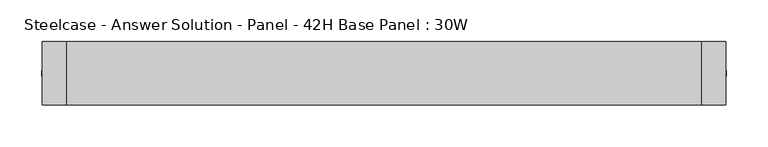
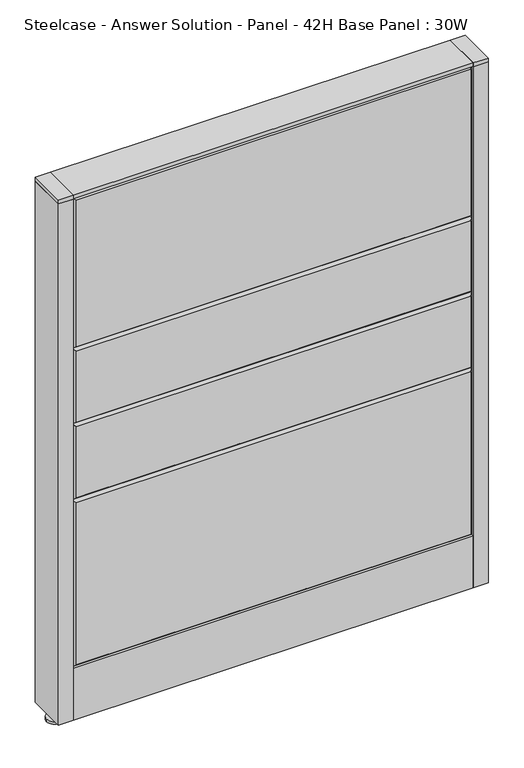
"""IFC4 building model written with IfcOpenShell, lengths in millimetres: furniture geometry, Steelcase - Answer Solution - Panel - 42H Base Panel : 30W."""

from ifc_helpers import new_model, si_unit, point, frame, frame_2d, origin, place, context, project, spatial, polyline, circle_curve, trimmed, segment, composite_curve, outline, extrude, faceted_brep, source, transform, mapped, element, save


def steelcase_answer_solution_panel_42h_base_panel_30w_7ac61dde(model_context):
    return source(origin(), model_context, "Body", "SolidModel", [
        extrude(outline(composite_curve([segment(trimmed(circle_curve(frame_2d((395.224, 0.0039657)), 5.08), [point((400.304, 0.0039657))], [point((390.144, 0.0039657))], False, "CARTESIAN"), True, "CONTINUOUS"), segment(trimmed(circle_curve(frame_2d((395.224, 0.0039657)), 5.08), [point((390.144, 0.0039657))], [point((400.304, 0.0039657))], False, "CARTESIAN"), True, "CONTINUOUS")], self_intersect=False)), frame((0.0, 0.0, 5.0799671), z_axis=(0.0, 0.0, 1.0), x_axis=(1.0, 0.0, 0.0)), (0.0, 0.0, 1.0), 10.414),
        extrude(outline(composite_curve([segment(trimmed(circle_curve(frame_2d((395.224, 0.0039657)), 15.24), [point((410.464, 0.0039657))], [point((379.984, 0.0039657))], False, "CARTESIAN"), True, "CONTINUOUS"), segment(trimmed(circle_curve(frame_2d((395.224, 0.0039657)), 15.24), [point((379.984, 0.0039657))], [point((410.464, 0.0039657))], False, "CARTESIAN"), True, "CONTINUOUS")], self_intersect=False)), frame((0.0, 0.0, -3.29e-05), z_axis=(0.0, 0.0, 1.0), x_axis=(1.0, 0.0, 0.0)), (0.0, 0.0, 1.0), 5.08),
        extrude(outline(polyline([(409.575, 38.1039851), (409.575, -38.0960149), (381.0, -38.0960149), (381.0, 38.1039851), (409.575, 38.1039851)])), frame((0.0, 0.0, 1065.8348), z_axis=(0.0, 0.0, 1.0), x_axis=(1.0, 0.0, 0.0)), (0.0, 0.0, 1.0), 7.3151671),
        extrude(outline(polyline([(409.575, 38.1039851), (409.575, -38.0960149), (381.0, -38.0960149), (381.0, 38.1039851), (409.575, 38.1039851)])), frame((0.0, 0.0, 15.4939671), z_axis=(0.0, 0.0, 1.0), x_axis=(1.0, 0.0, 0.0)), (0.0, 0.0, 1.0), 1050.3408329),
        extrude(outline(composite_curve([segment(trimmed(circle_curve(frame_2d((-395.224, 0.0039657)), 5.08), [point((-400.304, 0.0039657))], [point((-390.144, 0.0039657))], False, "CARTESIAN"), True, "CONTINUOUS"), segment(trimmed(circle_curve(frame_2d((-395.224, 0.0039657)), 5.08), [point((-390.144, 0.0039657))], [point((-400.304, 0.0039657))], False, "CARTESIAN"), True, "CONTINUOUS")], self_intersect=False)), frame((0.0, 0.0, 5.0799671), z_axis=(0.0, 0.0, 1.0), x_axis=(1.0, 0.0, 0.0)), (0.0, 0.0, 1.0), 10.414),
        extrude(outline(composite_curve([segment(trimmed(circle_curve(frame_2d((-395.224, 0.0039657)), 15.24), [point((-410.464, 0.0039657))], [point((-379.984, 0.0039657))], False, "CARTESIAN"), True, "CONTINUOUS"), segment(trimmed(circle_curve(frame_2d((-395.224, 0.0039657)), 15.24), [point((-379.984, 0.0039657))], [point((-410.464, 0.0039657))], False, "CARTESIAN"), True, "CONTINUOUS")], self_intersect=False)), frame((0.0, 0.0, -3.29e-05), z_axis=(0.0, 0.0, 1.0), x_axis=(1.0, 0.0, 0.0)), (0.0, 0.0, 1.0), 5.08),
        extrude(outline(polyline([(-409.575, 38.1039851), (-381.0, 38.1039851), (-381.0, -38.0960149), (-409.575, -38.0960149), (-409.575, 38.1039851)])), frame((0.0, 0.0, 1065.8348), z_axis=(0.0, 0.0, 1.0), x_axis=(1.0, 0.0, 0.0)), (0.0, 0.0, 1.0), 7.3151671),
        extrude(outline(polyline([(-409.575, 38.1039851), (-381.0, 38.1039851), (-381.0, -38.0960149), (-409.575, -38.0960149), (-409.575, 38.1039851)])), frame((0.0, 0.0, 15.4939671), z_axis=(0.0, 0.0, 1.0), x_axis=(1.0, 0.0, 0.0)), (0.0, 0.0, 1.0), 1050.3408329),
        faceted_brep([(-376.174, 38.1635011, 1061.974), (376.174, 38.1635011, 1061.974), (376.174, 38.1635011, 766.826), (-376.174, 38.1635011, 766.826), (-381.0, 33.3375011, 1066.8), (-381.0, 33.3375011, 762.0), (381.0, 33.3375011, 762.0), (381.0, 33.3375011, 1066.8)], [[[0, 1, 2, 3]], [[4, 5, 6, 7]], [[4, 7, 1, 0]], [[7, 6, 2, 1]], [[6, 5, 3, 2]], [[5, 4, 0, 3]]]),
        faceted_brep([(-376.174, 38.1635011, 757.174), (376.174, 38.1635011, 757.174), (376.174, 38.1635011, 614.426), (-376.174, 38.1635011, 614.426), (-381.0, 33.3375011, 762.0), (-381.0, 33.3375011, 609.6), (381.0, 33.3375011, 609.6), (381.0, 33.3375011, 762.0)], [[[0, 1, 2, 3]], [[4, 5, 6, 7]], [[4, 7, 1, 0]], [[7, 6, 2, 1]], [[6, 5, 3, 2]], [[5, 4, 0, 3]]]),
        faceted_brep([(-376.174, 38.1635011, 604.774), (376.174, 38.1635011, 604.774), (376.174, 38.1635011, 462.026), (-376.174, 38.1635011, 462.026), (-381.0, 33.3375011, 609.6), (-381.0, 33.3375011, 457.2), (381.0, 33.3375011, 457.2), (381.0, 33.3375011, 609.6)], [[[0, 1, 2, 3]], [[4, 5, 6, 7]], [[4, 7, 1, 0]], [[7, 6, 2, 1]], [[6, 5, 3, 2]], [[5, 4, 0, 3]]]),
        faceted_brep([(-376.174, 38.1635011, 452.374), (376.174, 38.1635011, 452.374), (376.174, 38.1635011, 125.476), (-376.174, 38.1635011, 125.476), (-381.0, 33.3375011, 457.2), (-381.0, 33.3375011, 120.65), (381.0, 33.3375011, 120.65), (381.0, 33.3375011, 457.2)], [[[0, 1, 2, 3]], [[4, 5, 6, 7]], [[4, 7, 1, 0]], [[7, 6, 2, 1]], [[6, 5, 3, 2]], [[5, 4, 0, 3]]]),
        faceted_brep([(376.174, -38.1635011, 1061.974), (-376.174, -38.1635011, 1061.974), (-376.174, -38.1635011, 766.826), (376.174, -38.1635011, 766.826), (381.0, -33.3375011, 1066.8), (381.0, -33.3375011, 762.0), (-381.0, -33.3375011, 762.0), (-381.0, -33.3375011, 1066.8)], [[[0, 1, 2, 3]], [[4, 5, 6, 7]], [[4, 7, 1, 0]], [[7, 6, 2, 1]], [[6, 5, 3, 2]], [[5, 4, 0, 3]]]),
        faceted_brep([(376.174, -38.1635011, 757.174), (-376.174, -38.1635011, 757.174), (-376.174, -38.1635011, 614.426), (376.174, -38.1635011, 614.426), (381.0, -33.3375011, 762.0), (381.0, -33.3375011, 609.6), (-381.0, -33.3375011, 609.6), (-381.0, -33.3375011, 762.0)], [[[0, 1, 2, 3]], [[4, 5, 6, 7]], [[4, 7, 1, 0]], [[7, 6, 2, 1]], [[6, 5, 3, 2]], [[5, 4, 0, 3]]]),
        faceted_brep([(376.174, -38.1635011, 604.774), (-376.174, -38.1635011, 604.774), (-376.174, -38.1635011, 462.026), (376.174, -38.1635011, 462.026), (381.0, -33.3375011, 609.6), (381.0, -33.3375011, 457.2), (-381.0, -33.3375011, 457.2), (-381.0, -33.3375011, 609.6)], [[[0, 1, 2, 3]], [[4, 5, 6, 7]], [[4, 7, 1, 0]], [[7, 6, 2, 1]], [[6, 5, 3, 2]], [[5, 4, 0, 3]]]),
        faceted_brep([(376.174, -38.1635011, 452.374), (-376.174, -38.1635011, 452.374), (-376.174, -38.1635011, 125.476), (376.174, -38.1635011, 125.476), (381.0, -33.3375011, 457.2), (381.0, -33.3375011, 120.65), (-381.0, -33.3375011, 120.65), (-381.0, -33.3375011, 457.2)], [[[0, 1, 2, 3]], [[4, 5, 6, 7]], [[4, 7, 1, 0]], [[7, 6, 2, 1]], [[6, 5, 3, 2]], [[5, 4, 0, 3]]]),
        extrude(outline(polyline([(381.0, 38.1000194), (381.0, -38.1000194), (-381.0, -38.1000194), (-381.0, 38.1000194), (381.0, 38.1000194)])), frame((0.0, 0.0, 1066.8), z_axis=(0.0, 0.0, 1.0), x_axis=(1.0, 0.0, 0.0)), (0.0, 0.0, 1.0), 6.35),
        extrude(outline(polyline([(25.4000011, 119.8575157), (25.4000011, 120.65), (38.1000194, 120.65), (38.1000194, 15.494), (37.3075215, 15.494), (37.3075215, 119.8575157), (25.4000011, 119.8575157)])), frame((-381.0, 0.0, 0.0), z_axis=(1.0, 0.0, 0.0), x_axis=(0.0, 1.0, 0.0)), (0.0, 0.0, 1.0), 762.0),
        extrude(outline(polyline([(-25.4000011, 119.8575157), (-37.3075215, 119.8575157), (-37.3075215, 15.494), (-38.1000194, 15.494), (-38.1000194, 120.65), (-25.4000011, 120.65), (-25.4000011, 119.8575157)])), frame((-381.0, 0.0, 0.0), z_axis=(1.0, 0.0, 0.0), x_axis=(0.0, 1.0, 0.0)), (0.0, 0.0, 1.0), 762.0),
    ])


if __name__ == "__main__":
    model = new_model("IFC4")
    model_context = context("Model", 3, world=origin())
    ifc_project = project(units=[si_unit("LENGTHUNIT", "METRE", prefix="MILLI")], contexts=[model_context])
    site = spatial("IfcSite", under=ifc_project)
    building = spatial("IfcBuilding", under=site)
    placement = place(None, origin())
    steelcase_answer_solution_panel_42h_base_panel_30w_shape = steelcase_answer_solution_panel_42h_base_panel_30w_7ac61dde(model_context)
    element("IfcFurniture", 1, ObjectType="Steelcase - Answer Solution - Panel - 42H Base Panel : 30W", at=placement, inside=building, context=model_context, shape_type="MappedRepresentation", body=[
        mapped(steelcase_answer_solution_panel_42h_base_panel_30w_shape, transform((0.0, 0.0, 0.0), x_axis=(1.0, 0.0, 0.0), y_axis=(0.0, 1.0, 0.0), z_axis=(0.0, 0.0, 1.0))),
    ])
    save(model, "model.ifc")
